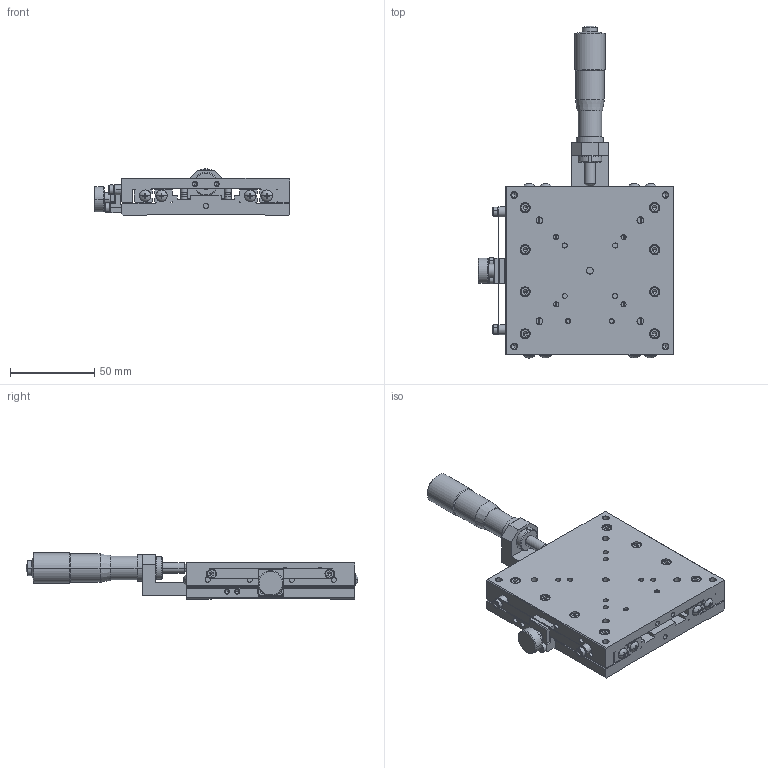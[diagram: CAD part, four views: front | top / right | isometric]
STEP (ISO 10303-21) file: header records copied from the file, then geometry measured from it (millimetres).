
FILE_DESCRIPTION (( 'STEP AP203' ), '1' );
FILE_NAME ('XM10A-C1.STEP', '2009-05-11T06:50:09', ( ' ' ), ( ' ' ), 'SwSTEP 2.0', 'SolidWorks 2008', '' );
FILE_SCHEMA (( 'CONFIG_CONTROL_DESIGN' ));
Length unit declared in the file: millimetre
Products named in the file (5): 001130-1011(3D); 001130-1022(3D); 001130-1011(3D)-Part-2; 001130-1011(3D)-Part-1; XM10A-C1
Assembly tree (4 placements, depth 3):
  XM10A-C1
    001130-1022(3D)
    001130-1011(3D)
      001130-1011(3D)-Part-1
      001130-1011(3D)-Part-2
Bounding box: 116.5 x 197.37 x 27.5 mm (x, y, z)
Volume: 206352.8 mm3; surface area: 82024.5 mm2
Topology: 3 solids, 50 shells, 1707 faces, 3978 edges, 2375 vertices
Faces by surface type: plane 768, cylinder 540, cone 363, sphere 20, torus 16
Entity records: 48529 total; most frequent: DIRECTION 8992, CARTESIAN_POINT 8220, ORIENTED_EDGE 7748, EDGE_CURVE 3874, AXIS2_PLACEMENT_3D 3455, VERTEX_POINT 2375, LINE 2082, VECTOR 2082
